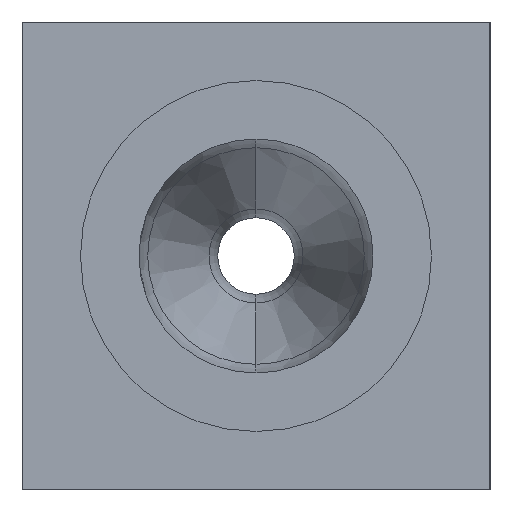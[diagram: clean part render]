
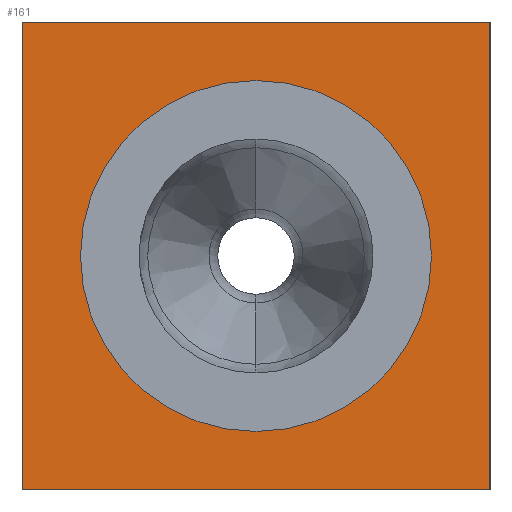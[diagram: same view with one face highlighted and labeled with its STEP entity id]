
A CAD part, left-side view. The second image highlights one B-rep face of the part: STEP entity #161.
In plain terms, the highlighted planar face has unit normal (-1, 0, 0).
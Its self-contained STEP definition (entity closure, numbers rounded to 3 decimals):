
#2 = ORIENTED_EDGE ( 'NONE', *, *, #656, .F. ) ;
#6 = VERTEX_POINT ( 'NONE', #901 ) ;
#21 = ORIENTED_EDGE ( 'NONE', *, *, #826, .F. ) ;
#27 = DIRECTION ( 'NONE',  ( 0., -1., 0. ) ) ;
#69 = CARTESIAN_POINT ( 'NONE',  ( 0., 0., -20. ) ) ;
#77 = CARTESIAN_POINT ( 'NONE',  ( 0., 20., -15. ) ) ;
#80 = DIRECTION ( 'NONE',  ( -1., 0., 0. ) ) ;
#116 = FACE_OUTER_BOUND ( 'NONE', #610, .T. ) ;
#137 = VERTEX_POINT ( 'NONE', #430 ) ;
#141 = DIRECTION ( 'NONE',  ( 0., -1., 0. ) ) ;
#144 = EDGE_LOOP ( 'NONE', ( #712, #2 ) ) ;
#146 = EDGE_CURVE ( 'NONE', #518, #6, #316, .T. ) ;
#161 = ADVANCED_FACE ( 'NONE', ( #510, #116 ), #293, .F. ) ;
#181 = AXIS2_PLACEMENT_3D ( 'NONE', #229, #80, #594 ) ;
#192 = VECTOR ( 'NONE', #141, 1000. ) ;
#204 = EDGE_CURVE ( 'NONE', #348, #205, #780, .T. ) ;
#205 = VERTEX_POINT ( 'NONE', #368 ) ;
#229 = CARTESIAN_POINT ( 'NONE',  ( 0., 20., 0. ) ) ;
#239 = VECTOR ( 'NONE', #27, 1000. ) ;
#269 = DIRECTION ( 'NONE',  ( 0., 0., -1. ) ) ;
#293 = PLANE ( 'NONE',  #624 ) ;
#297 = EDGE_CURVE ( 'NONE', #667, #205, #796, .T. ) ;
#316 = CIRCLE ( 'NONE', #410, 15. ) ;
#348 = VERTEX_POINT ( 'NONE', #777 ) ;
#364 = VECTOR ( 'NONE', #269, 1000. ) ;
#365 = DIRECTION ( 'NONE',  ( -1., 0., 0. ) ) ;
#368 = CARTESIAN_POINT ( 'NONE',  ( 0., 0., -20. ) ) ;
#406 = CARTESIAN_POINT ( 'NONE',  ( 0., 0., 20. ) ) ;
#410 = AXIS2_PLACEMENT_3D ( 'NONE', #582, #365, #432 ) ;
#424 = EDGE_CURVE ( 'NONE', #137, #348, #941, .T. ) ;
#430 = CARTESIAN_POINT ( 'NONE',  ( 0., 40., 20. ) ) ;
#432 = DIRECTION ( 'NONE',  ( 0., 0., -1. ) ) ;
#503 = LINE ( 'NONE', #680, #239 ) ;
#510 = FACE_BOUND ( 'NONE', #144, .T. ) ;
#518 = VERTEX_POINT ( 'NONE', #77 ) ;
#527 = DIRECTION ( 'NONE',  ( 0., 0., -1. ) ) ;
#537 = ORIENTED_EDGE ( 'NONE', *, *, #424, .T. ) ;
#582 = CARTESIAN_POINT ( 'NONE',  ( 0., 20., 0. ) ) ;
#594 = DIRECTION ( 'NONE',  ( 0., 0., -1. ) ) ;
#610 = EDGE_LOOP ( 'NONE', ( #891, #900, #21, #537 ) ) ;
#624 = AXIS2_PLACEMENT_3D ( 'NONE', #725, #854, #649 ) ;
#648 = CIRCLE ( 'NONE', #181, 15. ) ;
#649 = DIRECTION ( 'NONE',  ( 0., 0., -1. ) ) ;
#656 = EDGE_CURVE ( 'NONE', #6, #518, #648, .T. ) ;
#667 = VERTEX_POINT ( 'NONE', #406 ) ;
#680 = CARTESIAN_POINT ( 'NONE',  ( 0., 0., 20. ) ) ;
#712 = ORIENTED_EDGE ( 'NONE', *, *, #146, .F. ) ;
#725 = CARTESIAN_POINT ( 'NONE',  ( 0., 0., 20. ) ) ;
#743 = CARTESIAN_POINT ( 'NONE',  ( 0., 0., 20. ) ) ;
#777 = CARTESIAN_POINT ( 'NONE',  ( 0., 40., -20. ) ) ;
#780 = LINE ( 'NONE', #69, #192 ) ;
#796 = LINE ( 'NONE', #743, #936 ) ;
#826 = EDGE_CURVE ( 'NONE', #137, #667, #503, .T. ) ;
#854 = DIRECTION ( 'NONE',  ( 1., 0., 0. ) ) ;
#891 = ORIENTED_EDGE ( 'NONE', *, *, #204, .T. ) ;
#900 = ORIENTED_EDGE ( 'NONE', *, *, #297, .F. ) ;
#901 = CARTESIAN_POINT ( 'NONE',  ( 0., 20., 15. ) ) ;
#919 = CARTESIAN_POINT ( 'NONE',  ( 0., 40., 20. ) ) ;
#936 = VECTOR ( 'NONE', #527, 1000. ) ;
#941 = LINE ( 'NONE', #919, #364 ) ;
